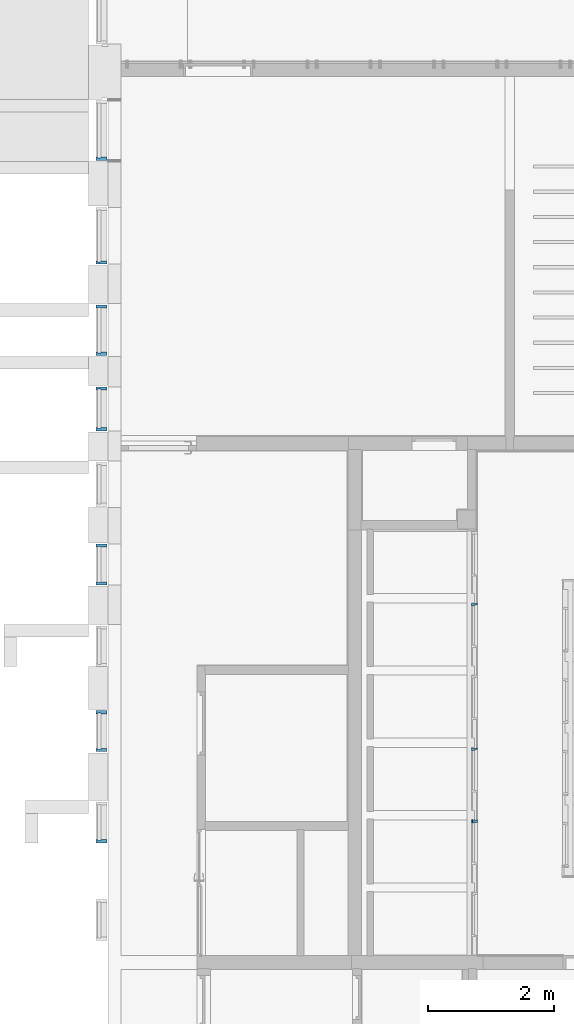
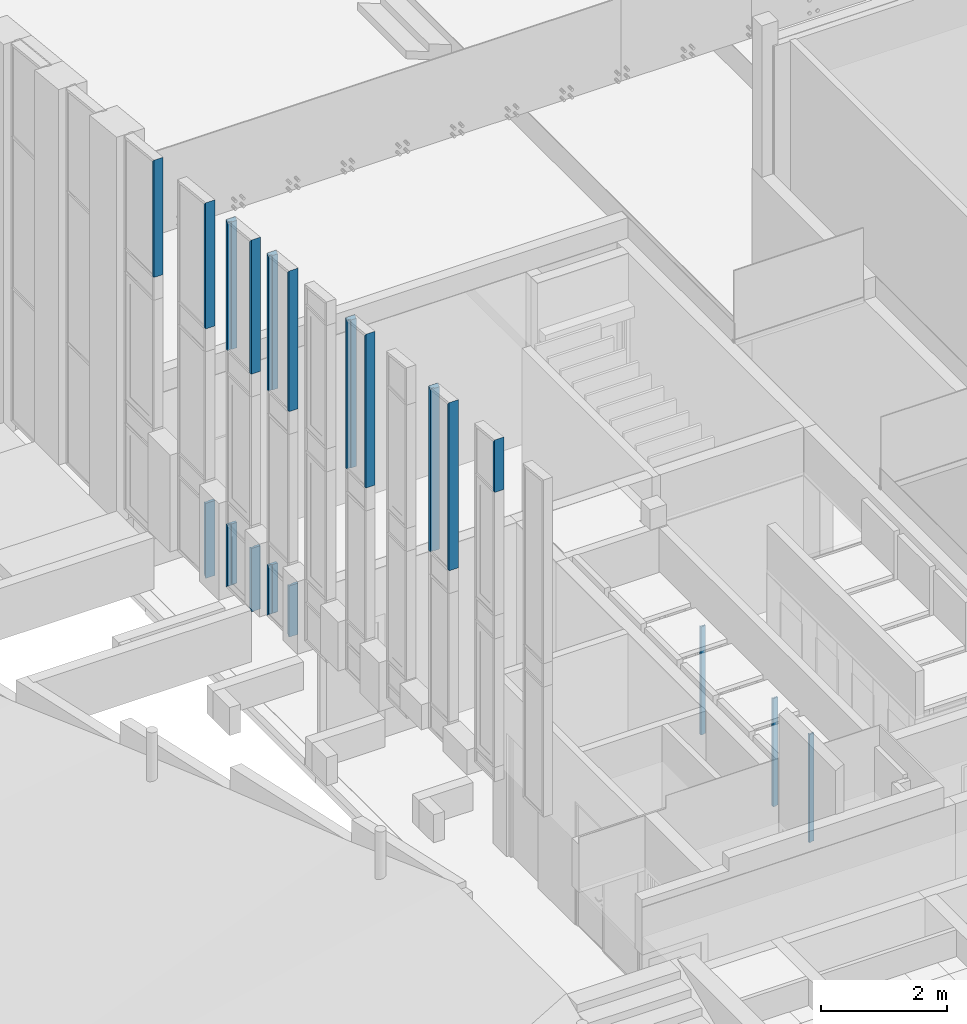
# One storey, part 60 of 246: 19 members, 8 elements without a shape of their own.
"""IFC2X3 building model written with IfcOpenShell, lengths in millimetres."""

from ifc_helpers import new_model, entity, si_unit, converted_unit, derived_unit, money_unit, direction, frame, origin_with_axes, place, context, subcontext, project, spatial, faceted_brep, material, material_list, type_object, element, aggregate, save


model = new_model("IFC2X3")

# Units and contexts
model_context = context("Model", 3, precision=0.01, world=origin_with_axes(), true_north=direction((0.0, 1.0)))
body_context = subcontext(model_context, "Body", "Model", "MODEL_VIEW")
ifc_project = project(units=[si_unit("LENGTHUNIT", "METRE", prefix="MILLI"), si_unit("AREAUNIT", "SQUARE_METRE"), si_unit("VOLUMEUNIT", "CUBIC_METRE"), converted_unit("PLANEANGLEUNIT", "DEGREE", entity("IfcPlaneAngleMeasure", 0.0174532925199), si_unit("PLANEANGLEUNIT", "RADIAN"), dimensions=[0, 0, 0, 0, 0, 0, 0]), si_unit("SOLIDANGLEUNIT", "STERADIAN"), money_unit("EUR"), converted_unit("TIMEUNIT", "Year", entity("IfcTimeMeasure", 31556926.0), si_unit("TIMEUNIT", "SECOND"), dimensions=[0, 0, 1, 0, 0, 0, 0]), si_unit("MASSUNIT", "GRAM", prefix="KILO"), si_unit("THERMODYNAMICTEMPERATUREUNIT", "DEGREE_CELSIUS"), si_unit("LUMINOUSINTENSITYUNIT", "LUMEN"), si_unit("ENERGYUNIT", "JOULE", prefix="MEGA"), derived_unit("THERMALCONDUCTANCEUNIT", [(si_unit("POWERUNIT", "WATT"), 1), (si_unit("LENGTHUNIT", "METRE"), -1), (si_unit("THERMODYNAMICTEMPERATUREUNIT", "KELVIN"), -1)]), derived_unit("SPECIFICHEATCAPACITYUNIT", [(si_unit("ENERGYUNIT", "JOULE"), 1), (si_unit("MASSUNIT", "GRAM", prefix="KILO"), -1), (si_unit("THERMODYNAMICTEMPERATUREUNIT", "KELVIN"), -1)]), derived_unit("MASSDENSITYUNIT", [(si_unit("MASSUNIT", "GRAM", prefix="KILO"), 1), (si_unit("VOLUMEUNIT", "CUBIC_METRE"), -1)])], contexts=[model_context])

# Site, building, storey
site_placement = place(None, origin_with_axes())
site = spatial("IfcSite", under=ifc_project, at=site_placement, Name="L.Koidula tn 11b", CompositionType="ELEMENT")
building_placement = place(site_placement, origin_with_axes())
building = spatial("IfcBuilding", under=site, at=building_placement, Name="Rakvere Riigigümnaasium", CompositionType="ELEMENT")
storey_placement = place(building_placement, origin_with_axes())
storey = spatial("IfcBuildingStorey", under=building, at=storey_placement, Name="1.korrus 0,00", CompositionType="ELEMENT", Elevation=0.0)

# Curtain wall, member
curtain_wall_type = type_object("IfcCurtainWallType", Name="Curtain Wall Type", PredefinedType="NOTDEFINED")
curtain_wall_1_placement = place(storey_placement, frame((35156.0871538, 30435.4555151, 1604.94683277), z_axis=(0.0, 0.0, 1.0), x_axis=(1.0, 0.0, 0.0)))
curtain_wall_1 = element("IfcCurtainWall", 1, at=curtain_wall_1_placement, inside=storey, type_object=curtain_wall_type, Name="KLF-04-01")
ifc_material_1 = material(Name="Alumiiniumprofiil (RAL 7021)")
member_type_1 = type_object("IfcMemberType", Name="Boundary Frame 50 x 170", PredefinedType="MULLION")
member_1_placement = place(curtain_wall_1_placement, frame((0.0, -475.000089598, 5085.00006988), z_axis=(0.0, 0.0, 1.0), x_axis=(0.0, 1.0, 0.0)))
member_1 = element("IfcMember", 2, at=member_1_placement, type_object=member_type_1, material=ifc_material_1, Name="KLF-04-56-Profiilid", ObjectType="MULLION", context=body_context, shape_type="Brep", body=[
    faceted_brep([(37.0, -26.0, 2239.05967769), (37.0, 26.0, 2239.05967769), (50.0, 26.0, 2224.62171668), (50.0, 46.0, 2224.62171668), (0.0, 46.0, 2280.15233594), (0.0, -124.0, 2280.15233594), (50.0, -124.0, 2224.62171668), (50.0, -26.0, 2224.62171668), (37.0, -26.0, -1.22099397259e-06), (37.0, 26.0, -1.22099397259e-06), (50.0, 26.0, -1.22099397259e-06), (50.0, 46.0, -1.22099397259e-06), (0.0, 46.0, -1.22099397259e-06), (0.0, -124.0, -1.22099397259e-06), (50.0, -124.0, -1.22099397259e-06), (50.0, -26.0, -1.22099397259e-06)], [[[0, 1, 2, 3, 4, 5, 6, 7]], [[1, 0, 8, 9]], [[10, 2, 1, 9]], [[2, 10, 11, 3]], [[12, 4, 3, 11]], [[13, 5, 4, 12]], [[14, 6, 5, 13]], [[15, 7, 6, 14]], [[0, 7, 15, 8]], [[8, 15, 14, 13, 12, 11, 10, 9]]]),
])
aggregate(curtain_wall_1, [member_1])

# Curtain wall, members
curtain_wall_2_placement = place(storey_placement, frame((35156.0871538, 28760.4555979, 1840.0), z_axis=(0.0, 0.0, 1.0), x_axis=(1.0, 0.0, 0.0)))
curtain_wall_2 = element("IfcCurtainWall", 3, at=curtain_wall_2_placement, inside=storey, type_object=curtain_wall_type, Name="KLF-04-02")
member_2_placement = place(curtain_wall_2_placement, frame((0.0, -449.999897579, 4850.00005204), z_axis=(0.0, 1.43028184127e-07, 1.0), x_axis=(0.0, 1.0, -1.43028184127e-07)))
member_2 = element("IfcMember", 4, at=member_2_placement, type_object=member_type_1, material=ifc_material_1, Name="KLF-04-94-Profiilid", ObjectType="MULLION", context=body_context, shape_type="Brep", body=[
    faceted_brep([(37.0, -26.0, 2412.42854838), (37.0, 26.0, 2412.42854838), (50.0, 26.0, 2397.99058735), (50.0, 46.0, 2397.99058735), (0.0, 46.0, 2453.52120671), (0.0, -124.0, 2453.52120671), (50.0, -124.0, 2397.99058735), (50.0, -26.0, 2397.99058735), (37.0, -26.0, -2.31876740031e-07), (37.0, 26.0, -2.31876740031e-07), (50.0, 26.0, -2.31876740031e-07), (50.0, 46.0, -2.31876740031e-07), (0.0, 46.0, -2.31876740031e-07), (0.0, -124.0, -2.31876740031e-07), (50.0, -124.0, -2.31876740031e-07), (50.0, -26.0, -2.31876740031e-07)], [[[0, 1, 2, 3, 4, 5, 6, 7]], [[1, 0, 8, 9]], [[10, 2, 1, 9]], [[2, 10, 11, 3]], [[12, 4, 3, 11]], [[13, 5, 4, 12]], [[14, 6, 5, 13]], [[15, 7, 6, 14]], [[0, 7, 15, 8]], [[8, 15, 14, 13, 12, 11, 10, 9]]]),
])
member_3_placement = place(curtain_wall_2_placement, frame((0.0, -450.000065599, 0.0), z_axis=(0.0, 0.0, 1.0), x_axis=(0.0, 1.0, 0.0)))
member_3 = element("IfcMember", 5, at=member_3_placement, type_object=member_type_1, material=ifc_material_1, Name="KLF-04-90-Profiilid", ObjectType="MULLION", context=body_context, shape_type="Brep", body=[
    faceted_brep([(37.0, -26.0, 1460.00005814), (37.0, 26.0, 1460.00005814), (50.0, 26.0, 1460.00005814), (50.0, 46.0, 1460.00005814), (0.0, 46.0, 1460.00005814), (0.0, -124.0, 1460.00005814), (50.0, -124.0, 1460.00005814), (50.0, -26.0, 1460.00005814), (37.0, -26.0, 37.0), (37.0, 26.0, 37.0), (50.0, 26.0, 50.0), (50.0, 46.0, 50.0), (0.0, 46.0, 0.0), (0.0, -124.0, 0.0), (50.0, -124.0, 50.0), (50.0, -26.0, 50.0)], [[[0, 1, 2, 3, 4, 5, 6, 7]], [[1, 0, 8, 9]], [[10, 2, 1, 9]], [[2, 10, 11, 3]], [[4, 3, 11, 12]], [[5, 4, 12, 13]], [[6, 5, 13, 14]], [[15, 7, 6, 14]], [[0, 7, 15, 8]], [[8, 15, 14, 13, 12, 11, 10, 9]]]),
])
aggregate(curtain_wall_2, [member_2, member_3])

curtain_wall_3_placement = place(storey_placement, frame((35156.0871538, 27260.4554897, 2070.0), z_axis=(0.0, 0.0, 1.0), x_axis=(1.0, 0.0, 0.0)))
curtain_wall_3 = element("IfcCurtainWall", 6, at=curtain_wall_3_placement, inside=storey, type_object=curtain_wall_type, Name="KLF-04-03")
member_4_placement = place(curtain_wall_3_placement, frame((0.0, 399.999995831, 1230.00005204), z_axis=(0.0, 0.0, -1.0), x_axis=(0.0, -1.0, 0.0)))
member_4 = element("IfcMember", 7, at=member_4_placement, type_object=member_type_1, material=ifc_material_1, Name="KLF-04-40-Profiilid", ObjectType="MULLION", context=body_context, shape_type="Brep", body=[
    faceted_brep([(37.0, -26.0, 1193.00005204), (37.0, 26.0, 1193.00005204), (50.0, 26.0, 1180.00005204), (50.0, 46.0, 1180.00005204), (0.0, 46.0, 1230.00005204), (0.0, -124.0, 1230.00005204), (50.0, -124.0, 1180.00005204), (50.0, -26.0, 1180.00005204), (37.0, -26.0, 0.0), (37.0, 26.0, 0.0), (50.0, 26.0, 0.0), (50.0, 46.0, 0.0), (0.0, 46.0, 0.0), (0.0, -124.0, 0.0), (50.0, -124.0, 0.0), (50.0, -26.0, 0.0)], [[[0, 1, 2, 3, 4, 5, 6, 7]], [[1, 0, 8, 9]], [[10, 2, 1, 9]], [[2, 10, 11, 3]], [[12, 4, 3, 11]], [[13, 5, 4, 12]], [[14, 6, 5, 13]], [[15, 7, 6, 14]], [[0, 7, 15, 8]], [[8, 15, 14, 13, 12, 11, 10, 9]]]),
])
member_5_placement = place(curtain_wall_3_placement, frame((0.0, 400.000019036, 7141.8389781), z_axis=(0.0, -9.20137371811e-09, -1.0), x_axis=(0.0, -1.0, 9.20137371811e-09)))
member_5 = element("IfcMember", 8, at=member_5_placement, type_object=member_type_1, material=ifc_material_1, Name="KLF-04-48-Profiilid", ObjectType="MULLION", context=body_context, shape_type="Brep", body=[
    faceted_brep([(37.0, -26.0, 2521.83892629), (37.0, 26.0, 2521.83892629), (50.0, 26.0, 2521.83892629), (50.0, 46.0, 2521.83892629), (0.0, 46.0, 2521.83892629), (0.0, -124.0, 2521.83892629), (50.0, -124.0, 2521.83892629), (50.0, -26.0, 2521.83892629), (37.0, -26.0, 33.3149482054), (37.0, 26.0, 33.3149482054), (50.0, 26.0, 45.0202002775), (50.0, 46.0, 45.0202002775), (0.0, 46.0, 0.0), (0.0, -124.0, 0.0), (50.0, -124.0, 45.0202002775), (50.0, -26.0, 45.0202002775)], [[[0, 1, 2, 3, 4, 5, 6, 7]], [[1, 0, 8, 9]], [[10, 2, 1, 9]], [[2, 10, 11, 3]], [[4, 3, 11, 12]], [[5, 4, 12, 13]], [[6, 5, 13, 14]], [[15, 7, 6, 14]], [[0, 7, 15, 8]], [[8, 15, 14, 13, 12, 11, 10, 9]]]),
])
member_6_placement = place(curtain_wall_3_placement, frame((0.0, -399.999999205, 4620.00005204), z_axis=(0.0, 0.0, 1.0), x_axis=(0.0, 1.0, 0.0)))
member_6 = element("IfcMember", 9, at=member_6_placement, type_object=member_type_1, material=ifc_material_1, Name="KLF-04-46-Profiilid", ObjectType="MULLION", context=body_context, shape_type="Brep", body=[
    faceted_brep([(37.0, -26.0, 2564.82969305), (37.0, 26.0, 2564.82969305), (50.0, 26.0, 2550.3917296), (50.0, 46.0, 2550.3917296), (0.0, 46.0, 2605.92235825), (0.0, -124.0, 2605.92235825), (50.0, -124.0, 2550.3917296), (50.0, -26.0, 2550.3917296), (37.0, -26.0, -1.89518623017e-07), (37.0, 26.0, -1.89518623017e-07), (50.0, 26.0, -1.89518400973e-07), (50.0, 46.0, -1.89518400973e-07), (0.0, 46.0, -1.89518400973e-07), (0.0, -124.0, -1.89518400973e-07), (50.0, -124.0, -1.89518400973e-07), (50.0, -26.0, -1.89518400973e-07)], [[[0, 1, 2, 3, 4, 5, 6, 7]], [[1, 0, 8, 9]], [[10, 2, 1, 9]], [[2, 10, 11, 3]], [[12, 4, 3, 11]], [[13, 5, 4, 12]], [[14, 6, 5, 13]], [[15, 7, 6, 14]], [[0, 7, 15, 8]], [[8, 15, 14, 13, 12, 11, 10, 9]]]),
])
member_7_placement = place(curtain_wall_3_placement, frame((0.0, -399.999995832, 0.0), z_axis=(0.0, 0.0, 1.0), x_axis=(0.0, 1.0, 0.0)))
member_7 = element("IfcMember", 10, at=member_7_placement, type_object=member_type_1, material=ifc_material_1, Name="KLF-04-42-Profiilid", ObjectType="MULLION", context=body_context, shape_type="Brep", body=[
    faceted_brep([(37.0, -26.0, 1230.00005204), (37.0, 26.0, 1230.00005204), (50.0, 26.0, 1230.00005204), (50.0, 46.0, 1230.00005204), (0.0, 46.0, 1230.00005204), (0.0, -124.0, 1230.00005204), (50.0, -124.0, 1230.00005204), (50.0, -26.0, 1230.00005204), (37.0, -26.0, 37.0), (37.0, 26.0, 37.0), (50.0, 26.0, 50.0), (50.0, 46.0, 50.0), (0.0, 46.0, 0.0), (0.0, -124.0, 0.0), (50.0, -124.0, 50.0), (50.0, -26.0, 50.0)], [[[0, 1, 2, 3, 4, 5, 6, 7]], [[1, 0, 8, 9]], [[10, 2, 1, 9]], [[2, 10, 11, 3]], [[4, 3, 11, 12]], [[5, 4, 12, 13]], [[6, 5, 13, 14]], [[15, 7, 6, 14]], [[0, 7, 15, 8]], [[8, 15, 14, 13, 12, 11, 10, 9]]]),
])
aggregate(curtain_wall_3, [member_4, member_5, member_6, member_7])

curtain_wall_4_placement = place(storey_placement, frame((35156.0871538, 20885.4555022, 3234.99992887), z_axis=(0.0, 0.0, 1.0), x_axis=(1.0, 0.0, 0.0)))
curtain_wall_4 = element("IfcCurtainWall", 11, at=curtain_wall_4_placement, inside=storey, type_object=curtain_wall_type, Name="KLF-04-08")
member_8_placement = place(curtain_wall_4_placement, frame((0.0, 325.000025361, 6654.76143317), z_axis=(0.0, -1.44947549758e-08, -1.0), x_axis=(0.0, -1.0, 1.44947549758e-08)))
member_8 = element("IfcMember", 12, at=member_8_placement, type_object=member_type_1, material=ifc_material_1, Name="KLF-04-56-Profiilid", ObjectType="MULLION", context=body_context, shape_type="Brep", body=[
    faceted_brep([(37.0, -26.0, 3199.7613624), (37.0, 26.0, 3199.7613624), (50.0, 26.0, 3199.7613624), (50.0, 46.0, 3199.7613624), (0.0, 46.0, 3199.7613624), (0.0, -124.0, 3199.7613624), (50.0, -124.0, 3199.7613624), (50.0, -26.0, 3199.7613624), (37.0, -26.0, 33.3149495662), (37.0, 26.0, 33.3149495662), (50.0, 26.0, 45.0202021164), (50.0, 46.0, 45.0202021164), (0.0, 46.0, 0.0), (0.0, -124.0, 0.0), (50.0, -124.0, 45.0202021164), (50.0, -26.0, 45.0202021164)], [[[0, 1, 2, 3, 4, 5, 6, 7]], [[1, 0, 8, 9]], [[10, 2, 1, 9]], [[2, 10, 11, 3]], [[4, 3, 11, 12]], [[5, 4, 12, 13]], [[6, 5, 13, 14]], [[15, 7, 6, 14]], [[0, 7, 15, 8]], [[8, 15, 14, 13, 12, 11, 10, 9]]]),
])
member_9_placement = place(curtain_wall_4_placement, frame((0.0, -324.999956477, 3455.00007113), z_axis=(0.0, 1.01975741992e-07, 1.0), x_axis=(0.0, 1.0, -1.01975741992e-07)))
member_9 = element("IfcMember", 13, at=member_9_placement, type_object=member_type_1, material=ifc_material_1, Name="KLF-04-54-Profiilid", ObjectType="MULLION", context=body_context, shape_type="Brep", body=[
    faceted_brep([(37.0, -26.0, 3226.98642945), (37.0, 26.0, 3226.98642945), (50.0, 26.0, 3212.548468), (50.0, 46.0, 3212.548468), (0.0, 46.0, 3268.07908898), (0.0, -124.0, 3268.07908898), (50.0, -124.0, 3212.548468), (50.0, -26.0, 3212.548468), (37.0, -26.0, -2.07625028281e-08), (37.0, 26.0, -2.07625028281e-08), (50.0, 26.0, -2.07625028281e-08), (50.0, 46.0, -2.07625028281e-08), (0.0, 46.0, -2.07625028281e-08), (0.0, -124.0, -2.07625028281e-08), (50.0, -124.0, -2.07625028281e-08), (50.0, -26.0, -2.07625028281e-08)], [[[0, 1, 2, 3, 4, 5, 6, 7]], [[1, 0, 8, 9]], [[10, 2, 1, 9]], [[2, 10, 11, 3]], [[12, 4, 3, 11]], [[13, 5, 4, 12]], [[14, 6, 5, 13]], [[15, 7, 6, 14]], [[0, 7, 15, 8]], [[8, 15, 14, 13, 12, 11, 10, 9]]]),
])
aggregate(curtain_wall_4, [member_8, member_9])

# Curtain wall, member
curtain_wall_5_placement = place(storey_placement, frame((35156.0871538, 19435.4554934, 3468.0), z_axis=(0.0, 0.0, 1.0), x_axis=(1.0, 0.0, 0.0)))
curtain_wall_5 = element("IfcCurtainWall", 14, at=curtain_wall_5_placement, inside=storey, type_object=curtain_wall_type, Name="KLF-04-09")
member_10_placement = place(curtain_wall_5_placement, frame((0.0, -325.000046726, 5622.00007113), z_axis=(0.0, 0.0, 1.0), x_axis=(0.0, 1.0, 0.0)))
member_10 = element("IfcMember", 15, at=member_10_placement, type_object=member_type_1, material=ifc_material_1, Name="KLF-04-03-Profiilid", ObjectType="MULLION", context=body_context, shape_type="Brep", body=[
    faceted_brep([(37.0, -26.0, 979.387571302), (37.0, 26.0, 979.387571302), (50.0, 26.0, 964.94960776), (50.0, 46.0, 964.94960776), (0.0, 46.0, 1020.48023677), (0.0, -124.0, 1020.48023677), (50.0, -124.0, 964.94960776), (50.0, -26.0, 964.94960776), (37.0, -26.0, -2.01881844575e-07), (37.0, 26.0, -2.01881844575e-07), (50.0, 26.0, -2.01881733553e-07), (50.0, 46.0, -2.01881733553e-07), (0.0, 46.0, -2.01881733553e-07), (0.0, -124.0, -2.01881733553e-07), (50.0, -124.0, -2.01881733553e-07), (50.0, -26.0, -2.01881733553e-07)], [[[0, 1, 2, 3, 4, 5, 6, 7]], [[1, 0, 8, 9]], [[10, 2, 1, 9]], [[2, 10, 11, 3]], [[12, 4, 3, 11]], [[13, 5, 4, 12]], [[14, 6, 5, 13]], [[15, 7, 6, 14]], [[0, 7, 15, 8]], [[8, 15, 14, 13, 12, 11, 10, 9]]]),
])
aggregate(curtain_wall_5, [member_10])

# Curtain wall, members
curtain_wall_6_placement = place(storey_placement, frame((35156.0871538, 26010.4555274, 2305.0), z_axis=(0.0, 0.0, 1.0), x_axis=(1.0, 0.0, 0.0)))
curtain_wall_6 = element("IfcCurtainWall", 16, at=curtain_wall_6_placement, inside=storey, type_object=curtain_wall_type, Name="KLF-04-04")
member_11_placement = place(curtain_wall_6_placement, frame((0.0, 349.999972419, 7043.47451174), z_axis=(0.0, 1.95968019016e-09, -1.0), x_axis=(0.0, -1.0, -1.95968019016e-09)))
member_11 = element("IfcMember", 17, at=member_11_placement, type_object=member_type_1, material=ifc_material_1, Name="KLF-04-61-Profiilid", ObjectType="MULLION", context=body_context, shape_type="Brep", body=[
    faceted_brep([(37.0, -26.0, 2658.47445975), (37.0, 26.0, 2658.47445975), (50.0, 26.0, 2658.47445975), (50.0, 46.0, 2658.47445975), (0.0, 46.0, 2658.47445975), (0.0, -124.0, 2658.47445975), (50.0, -124.0, 2658.47445975), (50.0, -26.0, 2658.47445975), (37.0, -26.0, 33.3149493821), (37.0, 26.0, 33.3149493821), (50.0, 26.0, 45.0202018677), (50.0, 46.0, 45.0202018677), (0.0, 46.0, 0.0), (0.0, -124.0, 0.0), (50.0, -124.0, 45.0202018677), (50.0, -26.0, 45.0202018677)], [[[0, 1, 2, 3, 4, 5, 6, 7]], [[1, 0, 8, 9]], [[10, 2, 1, 9]], [[2, 10, 11, 3]], [[4, 3, 11, 12]], [[5, 4, 12, 13]], [[6, 5, 13, 14]], [[15, 7, 6, 14]], [[0, 7, 15, 8]], [[8, 15, 14, 13, 12, 11, 10, 9]]]),
])
member_12_placement = place(curtain_wall_6_placement, frame((0.0, 349.999977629, 995.00005204), z_axis=(0.0, 0.0, -1.0), x_axis=(0.0, -1.0, 0.0)))
member_12 = element("IfcMember", 18, at=member_12_placement, type_object=member_type_1, material=ifc_material_1, Name="KLF-04-53-Profiilid", ObjectType="MULLION", context=body_context, shape_type="Brep", body=[
    faceted_brep([(37.0, -26.0, 958.00005204), (37.0, 26.0, 958.00005204), (50.0, 26.0, 945.00005204), (50.0, 46.0, 945.00005204), (0.0, 46.0, 995.00005204), (0.0, -124.0, 995.00005204), (50.0, -124.0, 945.00005204), (50.0, -26.0, 945.00005204), (37.0, -26.0, 0.0), (37.0, 26.0, 0.0), (50.0, 26.0, 0.0), (50.0, 46.0, 0.0), (0.0, 46.0, 0.0), (0.0, -124.0, 0.0), (50.0, -124.0, 0.0), (50.0, -26.0, 0.0)], [[[0, 1, 2, 3, 4, 5, 6, 7]], [[1, 0, 8, 9]], [[10, 2, 1, 9]], [[2, 10, 11, 3]], [[12, 4, 3, 11]], [[13, 5, 4, 12]], [[14, 6, 5, 13]], [[15, 7, 6, 14]], [[0, 7, 15, 8]], [[8, 15, 14, 13, 12, 11, 10, 9]]]),
])
member_13_placement = place(curtain_wall_6_placement, frame((0.0, -349.999870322, 4385.00005204), z_axis=(0.0, 1.37200793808e-07, 1.0), x_axis=(0.0, 1.0, -1.37200793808e-07)))
member_13 = element("IfcMember", 19, at=member_13_placement, type_object=member_type_1, material=ifc_material_1, Name="KLF-04-59-Profiilid", ObjectType="MULLION", context=body_context, shape_type="Brep", body=[
    faceted_brep([(37.0, -26.0, 2690.95471489), (37.0, 26.0, 2690.95471489), (50.0, 26.0, 2676.5167541), (50.0, 46.0, 2676.5167541), (0.0, 46.0, 2732.0473725), (0.0, -124.0, 2732.0473725), (50.0, -124.0, 2676.5167541), (50.0, -26.0, 2676.5167541), (37.0, -26.0, -3.71212394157e-07), (37.0, 26.0, -3.71212394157e-07), (50.0, 26.0, -3.71212394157e-07), (50.0, 46.0, -3.71212394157e-07), (0.0, 46.0, -3.71212394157e-07), (0.0, -124.0, -3.71212394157e-07), (50.0, -124.0, -3.71212394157e-07), (50.0, -26.0, -3.71212394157e-07)], [[[0, 1, 2, 3, 4, 5, 6, 7]], [[1, 0, 8, 9]], [[10, 2, 1, 9]], [[2, 10, 11, 3]], [[12, 4, 3, 11]], [[13, 5, 4, 12]], [[14, 6, 5, 13]], [[15, 7, 6, 14]], [[0, 7, 15, 8]], [[8, 15, 14, 13, 12, 11, 10, 9]]]),
])
member_14_placement = place(curtain_wall_6_placement, frame((0.0, -350.00003049, 0.0), z_axis=(0.0, 0.0, 1.0), x_axis=(0.0, 1.0, 0.0)))
member_14 = element("IfcMember", 20, at=member_14_placement, type_object=member_type_1, material=ifc_material_1, Name="KLF-04-55-Profiilid", ObjectType="MULLION", context=body_context, shape_type="Brep", body=[
    faceted_brep([(37.0, -26.0, 995.00005204), (37.0, 26.0, 995.00005204), (50.0, 26.0, 995.00005204), (50.0, 46.0, 995.00005204), (0.0, 46.0, 995.00005204), (0.0, -124.0, 995.00005204), (50.0, -124.0, 995.00005204), (50.0, -26.0, 995.00005204), (37.0, -26.0, 37.0), (37.0, 26.0, 37.0), (50.0, 26.0, 50.0), (50.0, 46.0, 50.0), (0.0, 46.0, 0.0), (0.0, -124.0, 0.0), (50.0, -124.0, 50.0), (50.0, -26.0, 50.0)], [[[0, 1, 2, 3, 4, 5, 6, 7]], [[1, 0, 8, 9]], [[10, 2, 1, 9]], [[2, 10, 11, 3]], [[4, 3, 11, 12]], [[5, 4, 12, 13]], [[6, 5, 13, 14]], [[15, 7, 6, 14]], [[0, 7, 15, 8]], [[8, 15, 14, 13, 12, 11, 10, 9]]]),
])
aggregate(curtain_wall_6, [member_11, member_12, member_13, member_14])

curtain_wall_7_placement = place(storey_placement, frame((35156.0871538, 23535.4555553, 2770.0), z_axis=(0.0, 0.0, 1.0), x_axis=(1.0, 0.0, 0.0)))
curtain_wall_7 = element("IfcCurtainWall", 21, at=curtain_wall_7_placement, inside=storey, type_object=curtain_wall_type, Name="KLF-04-06")
member_15_placement = place(curtain_wall_7_placement, frame((0.0, 324.999930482, 6841.23509609), z_axis=(0.0, 6.63861926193e-09, -1.0), x_axis=(0.0, -1.0, -6.63861926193e-09)))
member_15 = element("IfcMember", 22, at=member_15_placement, type_object=member_type_1, material=ifc_material_1, Name="KLF-04-51-Profiilid", ObjectType="MULLION", context=body_context, shape_type="Brep", body=[
    faceted_brep([(37.0, -26.0, 2921.23504422), (37.0, 26.0, 2921.23504422), (50.0, 26.0, 2921.23504422), (50.0, 46.0, 2921.23504422), (0.0, 46.0, 2921.23504422), (0.0, -124.0, 2921.23504422), (50.0, -124.0, 2921.23504422), (50.0, -26.0, 2921.23504422), (37.0, -26.0, 33.3149454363), (37.0, 26.0, 33.3149454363), (50.0, 26.0, 45.0201965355), (50.0, 46.0, 45.0201965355), (0.0, 46.0, 0.0), (0.0, -124.0, 0.0), (50.0, -124.0, 45.0201965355), (50.0, -26.0, 45.0201965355)], [[[0, 1, 2, 3, 4, 5, 6, 7]], [[1, 0, 8, 9]], [[10, 2, 1, 9]], [[2, 10, 11, 3]], [[4, 3, 11, 12]], [[5, 4, 12, 13]], [[6, 5, 13, 14]], [[15, 7, 6, 14]], [[0, 7, 15, 8]], [[8, 15, 14, 13, 12, 11, 10, 9]]]),
])
member_16_placement = place(curtain_wall_7_placement, frame((0.0, -324.999995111, 3920.00005204), z_axis=(0.0, -1.18429725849e-07, 1.0), x_axis=(0.0, 1.0, 1.18429725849e-07)))
member_16 = element("IfcMember", 23, at=member_16_placement, type_object=member_type_1, material=ifc_material_1, Name="KLF-04-49-Profiilid", ObjectType="MULLION", context=body_context, shape_type="Brep", body=[
    faceted_brep([(37.0, -26.0, 2948.4602316), (37.0, 26.0, 2948.4602316), (50.0, 26.0, 2934.02226547), (50.0, 46.0, 2934.02226547), (0.0, 46.0, 2989.55290445), (0.0, -124.0, 2989.55290445), (50.0, -124.0, 2934.02226547), (50.0, -26.0, 2934.02226547), (37.0, -26.0, -4.19349444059e-07), (37.0, 26.0, -4.19349444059e-07), (50.0, 26.0, -4.19349666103e-07), (50.0, 46.0, -4.19349666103e-07), (0.0, 46.0, -4.19349666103e-07), (0.0, -124.0, -4.19349666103e-07), (50.0, -124.0, -4.19349666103e-07), (50.0, -26.0, -4.19349666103e-07)], [[[0, 1, 2, 3, 4, 5, 6, 7]], [[1, 0, 8, 9]], [[10, 2, 1, 9]], [[2, 10, 11, 3]], [[12, 4, 3, 11]], [[13, 5, 4, 12]], [[14, 6, 5, 13]], [[15, 7, 6, 14]], [[0, 7, 15, 8]], [[8, 15, 14, 13, 12, 11, 10, 9]]]),
])
aggregate(curtain_wall_7, [member_15, member_16])

curtain_wall_8_placement = place(storey_placement, frame((41170.0073165, 24038.4555472, 1.56205997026e-05), z_axis=(0.0, 0.0, 1.0), x_axis=(1.0, 0.0, 0.0)))
curtain_wall_8 = element("IfcCurtainWall", 24, at=curtain_wall_8_placement, inside=storey, type_object=curtain_wall_type, Name="SUS-01")
ifc_material_2 = material(Name="MDF")
ifc_material_3 = material(Name="Alumiiniumprofiil")
ifc_material_list = material_list([ifc_material_2, ifc_material_3])
member_type_2 = type_object("IfcMemberType", Name="SA-Siseuksesüsteem-P 46 x 0", PredefinedType="MULLION")
member_17_placement = place(curtain_wall_8_placement, frame((0.0, -1147.00003493, -1.56205997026e-05), z_axis=(0.0, 0.0, 1.0), x_axis=(0.0, 1.0, 0.0)))
member_17 = element("IfcMember", 25, at=member_17_placement, type_object=member_type_2, material=ifc_material_list, Name="Frame-SA-Siseuks-017", ObjectType="MULLION", context=body_context, shape_type="Brep", body=[
    faceted_brep([(-10.0000294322, 81.9999773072, 0.0), (33.9835242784, 81.9999773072, 0.0), (33.9835242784, 81.9999773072, 2099.99998859), (-10.0000294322, 81.9999773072, 2099.99998859), (-10.0000294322, 91.9999779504, 0.0), (33.9835242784, 91.9999779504, 0.0), (33.9835242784, 91.9999779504, 2099.99998859), (-10.0000294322, 91.9999779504, 2099.99998859)], [[[0, 1, 2, 3]], [[4, 5, 1, 0]], [[5, 6, 2, 1]], [[3, 2, 6, 7]], [[3, 7, 4, 0]], [[7, 6, 5, 4]]]),
    faceted_brep([(22.4999997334, 78.0000000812, 0.0), (33.9835242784, 78.0000000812, 0.0), (33.9835242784, 78.0000000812, 2099.99998859), (22.4999997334, 78.0000000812, 2099.99998859), (33.9835242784, 47.600000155, 0.0), (33.9835242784, 45.000028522, 0.0), (33.9999997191, 45.000028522, 0.0), (33.9999997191, 44.3999997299, 0.0), (22.4999997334, 44.3999997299, 0.0), (22.4999997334, 13.9999998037, 0.0), (33.9999997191, 13.9999998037, 0.0), (33.9999997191, 9.99997870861, 0.0), (32.0000001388, 9.99997870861, 0.0), (32.0000001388, 10.49999951, 0.0), (2.00000095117, 10.49999951, 0.0), (1.99999958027, 10.0000006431, 0.0), (2.00000095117, 0.0, 0.0), (0.0, 0.0, 0.0), (0.0, 32.9000011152, 0.0), (0.0, 47.5000006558, 0.0), (-12.0000002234, 47.5000006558, 0.0), (-12.0000002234, 91.9999779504, 0.0), (-10.0000006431, 91.9999779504, 0.0), (-10.0000294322, 81.9999773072, 0.0), (-9.99999927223, 81.5000003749, 0.0), (24.2499991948, 81.5000003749, 0.0), (33.9835242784, 81.5000003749, 0.0), (22.4999997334, 47.600000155, 0.0), (33.9835242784, 81.5000003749, 2099.99998859), (33.9999997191, 45.000028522, 2099.99998859), (33.9835242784, 45.000028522, 2099.99998859), (33.9835242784, 47.600000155, 2099.99998859), (22.4999997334, 47.600000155, 2099.99998859), (24.2499991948, 81.5000003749, 2099.99998859), (-9.99999927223, 81.5000003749, 2099.99998859), (-10.0000294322, 81.9999773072, 2099.99998859), (-10.0000006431, 91.9999779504, 2099.99998859), (-12.0000002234, 91.9999779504, 2099.99998859), (-12.0000002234, 47.5000006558, 2099.99998859), (0.0, 47.5000006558, 2099.99998859), (0.0, 32.9000011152, 2099.99998859), (0.0, 0.0, 2099.99998859), (2.00000095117, 0.0, 2099.99998859), (1.99999958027, 10.0000006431, 2099.99998859), (2.00000095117, 10.49999951, 2099.99998859), (32.0000001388, 10.49999951, 2099.99998859), (32.0000001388, 9.99997870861, 2099.99998859), (33.9999997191, 9.99997870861, 2099.99998859), (33.9999997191, 13.9999998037, 2099.99998859), (22.4999997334, 13.9999998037, 2099.99998859), (22.4999997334, 44.3999997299, 2099.99998859), (33.9999997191, 44.3999997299, 2099.99998859)], [[[0, 1, 2, 3]], [[4, 5, 6, 7, 8, 9, 10, 11, 12, 13, 14, 15, 16, 17, 18, 19, 20, 21, 22, 23, 24, 25, 26, 1, 0, 27]], [[26, 28, 2, 1]], [[29, 30, 31, 32, 3, 2, 28, 33, 34, 35, 36, 37, 38, 39, 40, 41, 42, 43, 44, 45, 46, 47, 48, 49, 50, 51]], [[3, 32, 27, 0]], [[4, 31, 30, 5]], [[5, 30, 29, 6]], [[7, 6, 29, 51]], [[51, 50, 8, 7]], [[50, 49, 9, 8]], [[49, 48, 10, 9]], [[48, 47, 11, 10]], [[47, 46, 12, 11]], [[46, 45, 13, 12]], [[45, 44, 14, 13]], [[44, 43, 15, 14]], [[43, 42, 16, 15]], [[42, 41, 17, 16]], [[41, 40, 18, 17]], [[40, 39, 19, 18]], [[39, 38, 20, 19]], [[38, 37, 21, 20]], [[37, 36, 22, 21]], [[36, 35, 23, 22]], [[35, 34, 24, 23]], [[34, 33, 25, 24]], [[33, 28, 26, 25]], [[32, 31, 4, 27]]]),
    faceted_brep([(33.9999997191, 9.99997870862, 0.0), (1.99999958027, 10.0000006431, 0.0), (1.99999958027, 10.0000006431, 2099.99998859), (33.9999997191, 9.99997870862, 2099.99998859), (33.9999997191, 0.0, 0.0), (1.99999958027, 0.0, 0.0), (1.99999958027, 0.0, 2099.99998859), (33.9999997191, 0.0, 2099.99998859)], [[[0, 1, 2, 3]], [[0, 4, 5, 1]], [[1, 5, 6, 2]], [[3, 2, 6, 7]], [[4, 0, 3, 7]], [[5, 4, 7, 6]]]),
])
member_18_placement = place(curtain_wall_8_placement, frame((0.0, -3447.00003493, -1.56205997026e-05), z_axis=(0.0, 0.0, 1.0), x_axis=(0.0, 1.0, 0.0)))
member_18 = element("IfcMember", 26, at=member_18_placement, type_object=member_type_2, material=ifc_material_list, Name="Frame-SA-Siseuks-019", ObjectType="MULLION", context=body_context, shape_type="Brep", body=[
    faceted_brep([(-10.0000294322, 81.9999773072, 0.0), (33.9518443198, 81.9999773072, 0.0), (33.9518443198, 81.9999773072, 2099.99998859), (-10.0000294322, 81.9999773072, 2099.99998859), (-10.0000294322, 91.9999779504, 0.0), (33.9518443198, 91.9999779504, 0.0), (33.9518443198, 91.9999779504, 2099.99998859), (-10.0000294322, 91.9999779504, 2099.99998859)], [[[0, 1, 2, 3]], [[4, 5, 1, 0]], [[5, 6, 2, 1]], [[3, 2, 6, 7]], [[3, 7, 4, 0]], [[7, 6, 5, 4]]]),
    faceted_brep([(22.4999997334, 78.0000000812, 0.0), (33.9518443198, 78.0000000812, 0.0), (33.9518443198, 78.0000000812, 2099.99998859), (22.4999997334, 78.0000000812, 2099.99998859), (33.9518443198, 47.600000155, 0.0), (33.9518443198, 45.000028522, 0.0), (33.9999997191, 45.000028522, 0.0), (33.9999997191, 44.3999997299, 0.0), (22.4999997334, 44.3999997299, 0.0), (22.4999997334, 13.9999998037, 0.0), (33.9999997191, 13.9999998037, 0.0), (33.9999997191, 9.99997870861, 0.0), (32.0000001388, 9.99997870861, 0.0), (32.0000001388, 10.49999951, 0.0), (2.00000095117, 10.49999951, 0.0), (1.99999958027, 10.0000006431, 0.0), (2.00000095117, 0.0, 0.0), (0.0, 0.0, 0.0), (0.0, 32.9000011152, 0.0), (0.0, 47.5000006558, 0.0), (-12.0000002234, 47.5000006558, 0.0), (-12.0000002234, 91.9999779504, 0.0), (-10.0000006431, 91.9999779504, 0.0), (-10.0000294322, 81.9999773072, 0.0), (-9.99999927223, 81.5000003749, 0.0), (24.2499991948, 81.5000003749, 0.0), (33.9518443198, 81.5000003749, 0.0), (22.4999997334, 47.600000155, 0.0), (33.9518443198, 81.5000003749, 2099.99998859), (33.9999997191, 45.000028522, 2099.99998859), (33.9518443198, 45.000028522, 2099.99998859), (33.9518443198, 47.600000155, 2099.99998859), (22.4999997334, 47.600000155, 2099.99998859), (24.2499991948, 81.5000003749, 2099.99998859), (-9.99999927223, 81.5000003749, 2099.99998859), (-10.0000294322, 81.9999773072, 2099.99998859), (-10.0000006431, 91.9999779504, 2099.99998859), (-12.0000002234, 91.9999779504, 2099.99998859), (-12.0000002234, 47.5000006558, 2099.99998859), (0.0, 47.5000006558, 2099.99998859), (0.0, 32.9000011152, 2099.99998859), (0.0, 0.0, 2099.99998859), (2.00000095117, 0.0, 2099.99998859), (1.99999958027, 10.0000006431, 2099.99998859), (2.00000095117, 10.49999951, 2099.99998859), (32.0000001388, 10.49999951, 2099.99998859), (32.0000001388, 9.99997870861, 2099.99998859), (33.9999997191, 9.99997870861, 2099.99998859), (33.9999997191, 13.9999998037, 2099.99998859), (22.4999997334, 13.9999998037, 2099.99998859), (22.4999997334, 44.3999997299, 2099.99998859), (33.9999997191, 44.3999997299, 2099.99998859)], [[[0, 1, 2, 3]], [[4, 5, 6, 7, 8, 9, 10, 11, 12, 13, 14, 15, 16, 17, 18, 19, 20, 21, 22, 23, 24, 25, 26, 1, 0, 27]], [[26, 28, 2, 1]], [[29, 30, 31, 32, 3, 2, 28, 33, 34, 35, 36, 37, 38, 39, 40, 41, 42, 43, 44, 45, 46, 47, 48, 49, 50, 51]], [[3, 32, 27, 0]], [[4, 31, 30, 5]], [[5, 30, 29, 6]], [[7, 6, 29, 51]], [[51, 50, 8, 7]], [[50, 49, 9, 8]], [[49, 48, 10, 9]], [[48, 47, 11, 10]], [[47, 46, 12, 11]], [[46, 45, 13, 12]], [[45, 44, 14, 13]], [[44, 43, 15, 14]], [[43, 42, 16, 15]], [[42, 41, 17, 16]], [[41, 40, 18, 17]], [[40, 39, 19, 18]], [[39, 38, 20, 19]], [[38, 37, 21, 20]], [[37, 36, 22, 21]], [[36, 35, 23, 22]], [[35, 34, 24, 23]], [[34, 33, 25, 24]], [[33, 28, 26, 25]], [[32, 31, 4, 27]]]),
    faceted_brep([(33.9999997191, 9.99997870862, 0.0), (1.99999958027, 10.0000006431, 0.0), (1.99999958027, 10.0000006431, 2099.99998859), (33.9999997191, 9.99997870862, 2099.99998859), (33.9999997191, 0.0, 0.0), (1.99999958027, 0.0, 0.0), (1.99999958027, 0.0, 2099.99998859), (33.9999997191, 0.0, 2099.99998859)], [[[0, 1, 2, 3]], [[0, 4, 5, 1]], [[1, 5, 6, 2]], [[3, 2, 6, 7]], [[4, 0, 3, 7]], [[5, 4, 7, 6]]]),
])
member_19_placement = place(curtain_wall_8_placement, frame((0.0, -4597.00003493, -1.56205997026e-05), z_axis=(0.0, 0.0, 1.0), x_axis=(0.0, 1.0, 0.0)))
member_19 = element("IfcMember", 27, at=member_19_placement, type_object=member_type_2, material=ifc_material_list, Name="Frame-SA-Siseuks-020", ObjectType="MULLION", context=body_context, shape_type="Brep", body=[
    faceted_brep([(33.8191916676, 81.9999773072, 0.0), (33.8191916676, 81.9999773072, 2099.99998859), (-10.0000294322, 81.9999773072, 2099.99998859), (-10.0000294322, 81.9999773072, 0.0), (33.8191916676, 91.9999779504, 2099.99998859), (33.8191916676, 91.9999779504, 0.0), (-10.0000294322, 91.9999779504, 2099.99998859), (-10.0000294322, 91.9999779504, 0.0)], [[[0, 1, 2, 3]], [[4, 1, 0, 5]], [[1, 4, 6, 2]], [[2, 6, 7, 3]], [[5, 0, 3, 7]], [[4, 5, 7, 6]]]),
    faceted_brep([(33.8191916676, 78.0000000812, 0.0), (33.8191916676, 78.0000000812, 2099.99998859), (22.4999997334, 78.0000000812, 2099.99998859), (22.4999997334, 78.0000000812, 0.0), (33.8191916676, 81.5000003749, 2099.99998859), (33.8191916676, 81.5000003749, 0.0), (33.8191916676, 45.0, 2099.99998859), (33.8191916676, 47.600000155, 2099.99998859), (22.4999997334, 47.600000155, 2099.99998859), (24.2499991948, 81.5000003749, 2099.99998859), (-9.99999927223, 81.5000003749, 2099.99998859), (-10.0000294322, 81.9999773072, 2099.99998859), (-10.0000006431, 91.9999779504, 2099.99998859), (-12.0000002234, 91.9999779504, 2099.99998859), (-12.0000002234, 47.5000006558, 2099.99998859), (0.0, 47.5000006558, 2099.99998859), (0.0, 32.9000011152, 2099.99998859), (0.0, 0.0, 2099.99998859), (2.00000095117, 0.0, 2099.99998859), (1.99999958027, 10.0000006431, 2099.99998859), (2.00000095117, 10.49999951, 2099.99998859), (32.0000001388, 10.49999951, 2099.99998859), (32.0000001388, 9.99997870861, 2099.99998859), (33.9999997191, 9.99997870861, 2099.99998859), (33.9999997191, 13.9999998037, 2099.99998859), (22.4999997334, 13.9999998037, 2099.99998859), (22.4999997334, 44.3999997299, 2099.99998859), (33.9999997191, 44.3999997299, 2099.99998859), (33.9999997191, 45.000028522, 2099.99998859), (33.9366750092, 45.0, 2099.99998859), (22.4999997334, 47.600000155, 0.0), (33.8191916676, 45.0, 0.0), (33.9366750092, 45.0, 0.0), (33.9999997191, 45.000028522, 0.0), (33.9999997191, 44.3999997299, 0.0), (22.4999997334, 44.3999997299, 0.0), (22.4999997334, 13.9999998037, 0.0), (33.9999997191, 13.9999998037, 0.0), (33.9999997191, 9.99997870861, 0.0), (32.0000001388, 9.99997870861, 0.0), (32.0000001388, 10.49999951, 0.0), (2.00000095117, 10.49999951, 0.0), (1.99999958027, 10.0000006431, 0.0), (2.00000095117, 0.0, 0.0), (0.0, 0.0, 0.0), (0.0, 32.9000011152, 0.0), (0.0, 47.5000006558, 0.0), (-12.0000002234, 47.5000006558, 0.0), (-12.0000002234, 91.9999779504, 0.0), (-10.0000006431, 91.9999779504, 0.0), (-10.0000294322, 81.9999773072, 0.0), (-9.99999927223, 81.5000003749, 0.0), (24.2499991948, 81.5000003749, 0.0), (33.8191916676, 47.600000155, 0.0)], [[[0, 1, 2, 3]], [[4, 1, 0, 5]], [[6, 7, 8, 2, 1, 4, 9, 10, 11, 12, 13, 14, 15, 16, 17, 18, 19, 20, 21, 22, 23, 24, 25, 26, 27, 28, 29]], [[2, 8, 30, 3]], [[31, 32, 33, 34, 35, 36, 37, 38, 39, 40, 41, 42, 43, 44, 45, 46, 47, 48, 49, 50, 51, 52, 5, 0, 3, 30, 53]], [[4, 5, 52, 9]], [[7, 6, 31, 53]], [[7, 53, 30, 8]], [[10, 9, 52, 51]], [[11, 10, 51, 50]], [[12, 11, 50, 49]], [[13, 12, 49, 48]], [[14, 13, 48, 47]], [[15, 14, 47, 46]], [[16, 15, 46, 45]], [[17, 16, 45, 44]], [[18, 17, 44, 43]], [[19, 18, 43, 42]], [[20, 19, 42, 41]], [[21, 20, 41, 40]], [[22, 21, 40, 39]], [[23, 22, 39, 38]], [[24, 23, 38, 37]], [[25, 24, 37, 36]], [[26, 25, 36, 35]], [[27, 26, 35, 34]], [[34, 33, 28, 27]], [[6, 29, 28, 33, 32, 31]]]),
    faceted_brep([(33.9999997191, 9.99997870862, 0.0), (1.99999958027, 10.0000006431, 0.0), (1.99999958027, 10.0000006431, 2099.99998859), (33.9999997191, 9.99997870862, 2099.99998859), (33.9999997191, 0.0, 0.0), (1.99999958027, 0.0, 0.0), (1.99999958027, 0.0, 2099.99998859), (33.9999997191, 0.0, 2099.99998859)], [[[0, 1, 2, 3]], [[0, 4, 5, 1]], [[1, 5, 6, 2]], [[3, 2, 6, 7]], [[4, 0, 3, 7]], [[5, 4, 7, 6]]]),
])
aggregate(curtain_wall_8, [member_17, member_18, member_19])

save(model, "model.ifc")
